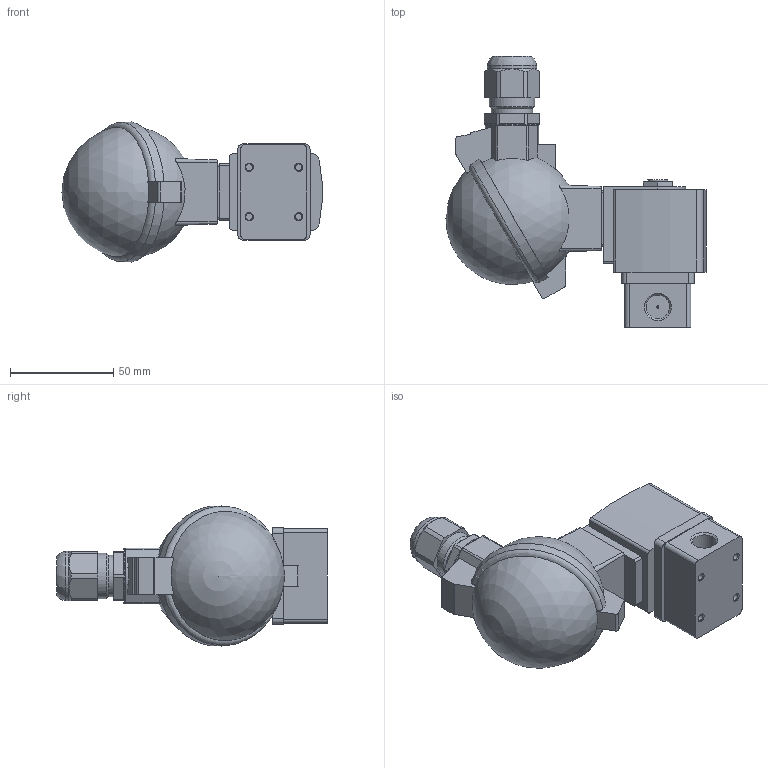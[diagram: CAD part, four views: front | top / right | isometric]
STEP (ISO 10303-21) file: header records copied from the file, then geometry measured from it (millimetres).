
FILE_DESCRIPTION( ( 'STEP AP214' ), '1' );
FILE_NAME( 'p:/temp/worker_15/temp/app_49_02018110107352882543446192d056f_000000_00_00_000000/format_0/6013-288449-2_2-Way-Compact-Solenoid-Valve-EEx.stp', '2018-11-01T06:35:30', ( '' ), ( '' ), ' ', 'PARTsolutions', ' ' );
FILE_SCHEMA( ( 'AUTOMOTIVE_DESIGN { 1 0 10303 214 1 1 1 1 }' ) );
Length unit declared in the file: millimetre
Products named in the file (3): 6013-288449-2/2-Way-Compact-Solenoid-Valve-EEx; _6013exg- A 3 G1/4 0-5 FKM VA 6; HI_AC10ex-6ATEXKLK_MB05Plan-Coil
Assembly tree (2 placements, depth 2):
  6013-288449-2/2-Way-Compact-Solenoid-Valve-EEx
    _6013exg- A 3 G1/4 0-5 FKM VA 6
    HI_AC10ex-6ATEXKLK_MB05Plan-Coil
Bounding box: 126.03 x 131.3 x 67.86 mm (x, y, z)
Volume: 285806.6 mm3; surface area: 42302.2 mm2
Topology: 2 solids, 2 shells, 181 faces, 458 edges, 298 vertices
Faces by surface type: plane 94, cylinder 55, cone 25, sphere 4, torus 2, bspline 1
Full cylindrical faces by diameter (mm): 1 x1, 3.242 x5, 9.74 x1, 11.445 x2, 14 x1, 17.294 x1, 20 x1, 22 x1, 23 x1, 24 x1, 27 x1
Entity records: 6991 total; most frequent: CARTESIAN_POINT 1186, DIRECTION 930, ORIENTED_EDGE 846, EDGE_CURVE 423, AXIS2_PLACEMENT_3D 360, VERTEX_POINT 292, EDGE_LOOP 228, LINE 210
